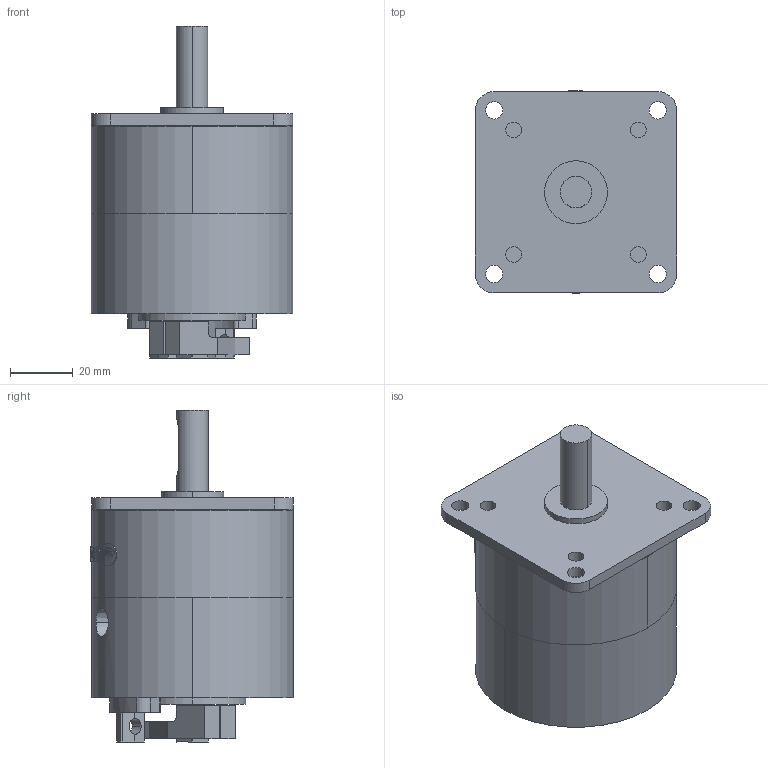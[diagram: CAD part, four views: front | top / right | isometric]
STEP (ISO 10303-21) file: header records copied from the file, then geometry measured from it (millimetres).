
FILE_DESCRIPTION (( 'STEP AP203' ), '1' );
FILE_NAME ('PRO30S_D-#-#-P.STEP', '2016-02-04T06:56:18', ( 'Sam Lin' ), ( '' ), 'SwSTEP 2.0', 'SolidWorks 2013', '' );
FILE_SCHEMA (( 'CONFIG_CONTROL_DESIGN' ));
Length unit declared in the file: metre
Products named in the file (8): PROA30D-#-# (2); PROA30D-#-# (3); PROA30D-#-# (1); PROA30D-#-# (5); PROA30D-#-# (7); mark-PROA30S; PROA30D-#-#-P (6); PRO30S_D-#-#-P
Assembly tree (7 placements, depth 2):
  PRO30S_D-#-#-P
    PROA30D-#-# (2)
    PROA30D-#-# (3)
    PROA30D-#-# (1)
    PROA30D-#-# (5)
    PROA30D-#-# (7)
    mark-PROA30S
    PROA30D-#-#-P (6)
Bounding box: 64 x 64.3 x 105.5 mm (x, y, z)
Volume: 213259 mm3; surface area: 46687.1 mm2
Topology: 14 solids, 14 shells, 378 faces, 928 edges, 616 vertices
Faces by surface type: cylinder 179, plane 154, bspline 35, cone 10
Entity records: 16266 total; most frequent: CARTESIAN_POINT 6311, DIRECTION 1938, ORIENTED_EDGE 1848, EDGE_CURVE 924, AXIS2_PLACEMENT_3D 751, VERTEX_POINT 616, EDGE_LOOP 464, VECTOR 436
